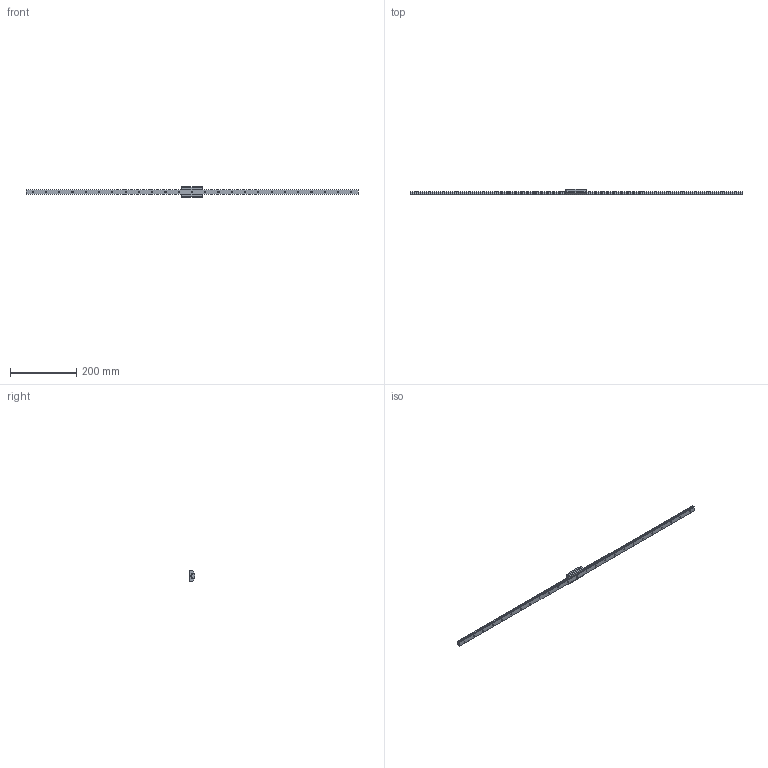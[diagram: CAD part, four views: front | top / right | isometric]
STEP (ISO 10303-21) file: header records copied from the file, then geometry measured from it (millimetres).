
FILE_DESCRIPTION( ( '' ), '1' );
FILE_NAME( 'C:/Users/v3-771-32344/Documents/Website 2016/STEP/SRS15N1UU1000200469.6000.stp', '2016-11-10T13:10:20', ( '' ), ( '' ), ' ', ' ', ' ' );
FILE_SCHEMA( ( 'CONFIG_CONTROL_DESIGN' ) );
Length unit declared in the file: millimetre
Products named in the file (2): 1; 2
Bounding box: 1000 x 16 x 32 mm (x, y, z)
Volume: 139746 mm3; surface area: 58307.6 mm2
Topology: 2 solids, 2 shells, 249 faces, 626 edges, 404 vertices
Faces by surface type: cylinder 130, plane 103, cone 16
Entity records: 7656 total; most frequent: DIRECTION 1388, CARTESIAN_POINT 1273, ORIENTED_EDGE 1236, EDGE_CURVE 618, AXIS2_PLACEMENT_3D 519, VERTEX_POINT 404, LINE 350, VECTOR 350
